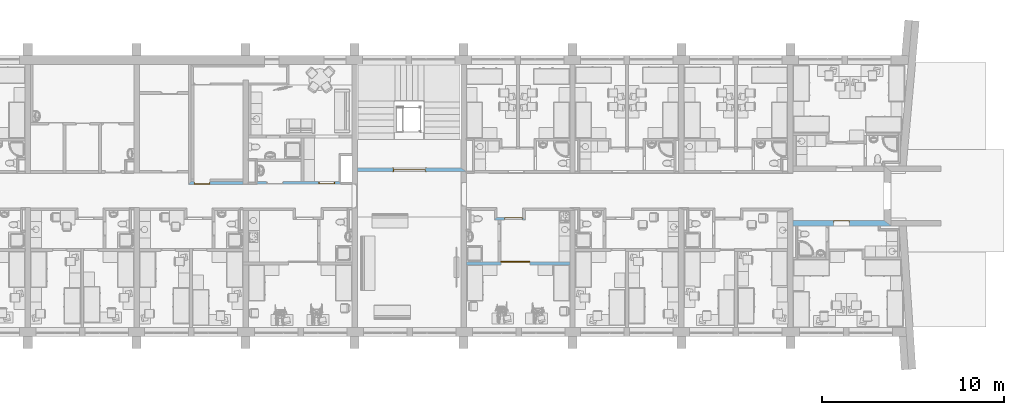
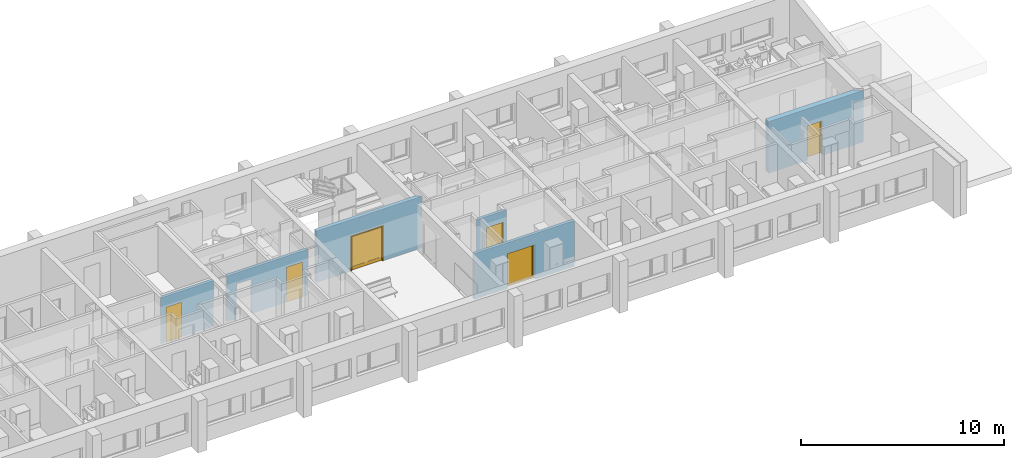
# One storey, part 38 of 172: 6 doors, 7 openings, plus 6 elements that do not belong to this part.
"""IFC2X3 building model written with IfcOpenShell, lengths in millimetres."""

from ifc_helpers import new_model, entity, si_unit, converted_unit, money_unit, direction, frame, origin_with_axes, place, context, subcontext, project, spatial, polyline, outline, extrude, open_shell, faceted_brep, surface_model, material, material_list, layer, layer_set, layer_usage, type_object, element, fill, save


model = new_model("IFC2X3")

# Units and contexts
model_context = context("Model", 3, precision=1e-05, world=origin_with_axes(), true_north=direction((0.0, 1.0)))
body_context = subcontext(model_context, "Body", "Model", "MODEL_VIEW")
ifc_project = project(units=[si_unit("LENGTHUNIT", "METRE", prefix="MILLI"), si_unit("AREAUNIT", "SQUARE_METRE"), si_unit("VOLUMEUNIT", "CUBIC_METRE"), converted_unit("PLANEANGLEUNIT", "DEGREE", entity("IfcPlaneAngleMeasure", 0.0174532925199), si_unit("PLANEANGLEUNIT", "RADIAN"), dimensions=[0, 0, 0, 0, 0, 0, 0]), si_unit("SOLIDANGLEUNIT", "STERADIAN"), money_unit("USD"), converted_unit("TIMEUNIT", "Year", entity("IfcTimeMeasure", 31556926.0), si_unit("TIMEUNIT", "SECOND"), dimensions=[0, 0, 0, 0, 0, 0, 0]), si_unit("MASSUNIT", "GRAM"), si_unit("THERMODYNAMICTEMPERATUREUNIT", "DEGREE_CELSIUS"), si_unit("LUMINOUSINTENSITYUNIT", "LUMEN")], contexts=[model_context])

# Site, building, storey
site_placement = place(None, origin_with_axes())
site = spatial("IfcSite", under=ifc_project, at=site_placement, Name="Site", CompositionType="ELEMENT")
building_placement = place(site_placement, origin_with_axes())
building = spatial("IfcBuilding", under=site, at=building_placement, Name="Building", CompositionType="ELEMENT")
storey_placement = place(building_placement, frame((0.0, 0.0, 3200.0), z_axis=(0.0, 0.0, 1.0), x_axis=(1.0, 0.0, 0.0)))
storey = spatial("IfcBuildingStorey", under=building, at=storey_placement, Name="3KORRUS", CompositionType="ELEMENT", Elevation=3200.0)

# Wall, opening, door
ifc_material_1 = material(Name="UmbKipsplaat")
ifc_layer_1 = layer(ifc_material_1, 13.0, ventilated="UNKNOWN")
ifc_layer_2 = layer(ifc_material_1, 13.0, ventilated="UNKNOWN")
ifc_material_2 = material(Name="SOOJUSTUS MINERAALVILL")
ifc_layer_3 = layer(ifc_material_2, 98.0, ventilated="UNKNOWN")
ifc_layer_4 = layer(ifc_material_1, 13.0, ventilated="UNKNOWN")
ifc_layer_5 = layer(ifc_material_1, 13.0, ventilated="UNKNOWN")
ifc_layer_set_1 = layer_set([ifc_layer_1, ifc_layer_2, ifc_layer_3, ifc_layer_4, ifc_layer_5], Name="kipssein150")
ifc_layer_usage_1 = layer_usage(ifc_layer_set_1, "AXIS2", "POSITIVE", -150.0)
wall_type_1 = type_object("IfcWallType", Name="kipssein150 150", PredefinedType="NOTDEFINED")
wall_1_placement = place(storey_placement, frame((-18290.2967033, -11742.9769722, 0.0), z_axis=(0.0, 0.0, 1.0), x_axis=(-1.0, 0.0, 0.0)))
wall_1 = element("IfcWallStandardCase", 1, at=wall_1_placement, inside=storey, type_object=wall_type_1, material=ifc_layer_usage_1, Name="SS1", ObjectType="SS1", context=body_context, shape_type="SweptSolid", body=[
    extrude(outline(polyline([(0.0, -150.0), (2853.5030761, -150.0), (3003.5030761, 0.0), (0.0, 0.0), (0.0, -150.0)])), origin_with_axes(), (0.0, 0.0, 1.0), 2750.0),
])
opening_1_placement = place(wall_1_placement, frame((2253.5030761, 0.0, 0.0), z_axis=(0.0, 0.0, 1.0), x_axis=(1.0, 0.0, 0.0)))
opening_1 = element("IfcOpeningElement", 2, at=opening_1_placement, cuts=wall_1, Name="SU2-1", context=body_context, shape_type="SweptSolid", body=[
    extrude(outline(polyline([(-450.0, -2100.0), (450.0, -2100.0), (450.0, 0.0), (-450.0, 0.0), (-450.0, -2100.0)])), frame((0.0, -150.0, 0.0), z_axis=(0.0, 1.0, 0.0), x_axis=(1.0, 0.0, 0.0)), (0.0, 0.0, 1.0), 450.0),
])
ifc_material_3 = material(Name="Background")
ifc_material_list = material_list([ifc_material_3])
door_style_1 = type_object("IfcDoorStyle", Name="Door 19", ConstructionType="NOTDEFINED", OperationType="SINGLE_SWING_RIGHT", ParameterTakesPrecedence=False, Sizeable=False)
door_1_placement = place(opening_1_placement, frame((-450.0, 0.0, 0.0), z_axis=(0.0, 0.0, 1.0), x_axis=(1.0, 0.0, 0.0)))
door_1 = element("IfcDoor", 3, at=door_1_placement, inside=storey, type_object=door_style_1, material=ifc_material_list, Name="SU2-1", ObjectType="Abiruumi uks", OverallHeight=2100.0, OverallWidth=900.0, context=body_context, shape_type="Brep", body=[
    faceted_brep([(40.0, -40.0, 0.0), (40.0, -40.0, 2060.0), (40.0, -115.0, 2060.0), (40.0, -115.0, 0.0), (28.0, -40.0, 2060.0), (28.0, -40.0, 0.0), (28.0, 0.0, 2060.0), (0.0, 0.0, 2060.0), (0.0, -115.0, 2060.0), (0.0, -115.0, 0.0), (0.0, 0.0, 0.0), (28.0, 0.0, 0.0)], [[[0, 1, 2, 3]], [[4, 1, 0, 5]], [[4, 6, 7, 8, 2, 1]], [[2, 8, 9, 3]], [[5, 0, 3, 9, 10, 11]], [[6, 4, 5, 11]], [[6, 11, 10, 7]], [[9, 8, 7, 10]]]),
    faceted_brep([(872.0, -40.0, 2060.0), (860.0, -40.0, 2060.0), (860.0, -115.0, 2060.0), (900.0, -115.0, 2060.0), (900.0, 0.0, 2060.0), (872.0, 0.0, 2060.0), (872.0, -40.0, 0.0), (860.0, -40.0, 0.0), (860.0, -115.0, 0.0), (900.0, -115.0, 0.0), (900.0, 0.0, 0.0), (872.0, 0.0, 0.0)], [[[0, 1, 2, 3, 4, 5]], [[1, 0, 6, 7]], [[1, 7, 8, 2]], [[2, 8, 9, 3]], [[3, 9, 10, 4]], [[11, 5, 4, 10]], [[0, 5, 11, 6]], [[6, 11, 10, 9, 8, 7]]]),
    faceted_brep([(28.0, 0.0, 2072.0), (28.0, 0.0, 2060.0), (0.0, 0.0, 2060.0), (0.0, 0.0, 2100.0), (900.0, 0.0, 2100.0), (900.0, 0.0, 2060.0), (872.0, 0.0, 2060.0), (872.0, 0.0, 2072.0), (28.0, -40.0, 2072.0), (28.0, -40.0, 2060.0), (40.0, -40.0, 2060.0), (40.0, -115.0, 2060.0), (0.0, -115.0, 2060.0), (0.0, -115.0, 2100.0), (900.0, -115.0, 2100.0), (900.0, -115.0, 2060.0), (872.0, -40.0, 2060.0), (860.0, -115.0, 2060.0), (860.0, -40.0, 2060.0), (872.0, -40.0, 2072.0)], [[[0, 1, 2, 3, 4, 5, 6, 7]], [[1, 0, 8, 9]], [[9, 10, 11, 12, 2, 1]], [[12, 13, 3, 2]], [[13, 14, 4, 3]], [[14, 15, 5, 4]], [[16, 6, 5, 15, 17, 18]], [[7, 6, 16, 19]], [[0, 7, 19, 8]], [[16, 18, 10, 9, 8, 19]], [[10, 18, 17, 11]], [[15, 14, 13, 12, 11, 17]]]),
    faceted_brep([(872.0, 0.0, 0.0), (872.0, -40.0, 0.0), (28.0, -40.0, 0.0), (28.0, 0.0, 0.0), (872.0, 0.0, 2072.0), (872.0, -40.0, 2072.0), (28.0, -40.0, 2072.0), (28.0, 0.0, 2072.0)], [[[0, 1, 2, 3]], [[4, 5, 1, 0]], [[1, 5, 6, 2]], [[3, 2, 6, 7]], [[0, 3, 7, 4]], [[7, 6, 5, 4]]]),
])
fill(opening_1, door_1)

ifc_layer_usage_2 = layer_usage(ifc_layer_set_1, "AXIS2", "POSITIVE", 0.0)
wall_2_placement = place(storey_placement, frame((9.70329668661, -16029.7357921, 0.0), z_axis=(0.0, 0.0, 1.0), x_axis=(-1.0, 0.0, 0.0)))
wall_2 = element("IfcWallStandardCase", 4, at=wall_2_placement, inside=storey, type_object=wall_type_1, material=ifc_layer_usage_2, Name="SS1", ObjectType="SS1", context=body_context, shape_type="SweptSolid", body=[
    extrude(outline(polyline([(300.0, 0.0), (6000.0, 0.0), (6000.0, 150.0), (300.0, 150.0), (300.0, 0.0)])), origin_with_axes(), (0.0, 0.0, 1.0), 2750.0),
])
opening_2_placement = place(wall_2_placement, frame((3298.49879352, 0.0, 0.0), z_axis=(0.0, 0.0, 1.0), x_axis=(1.0, 0.0, 0.0)))
opening_2 = element("IfcOpeningElement", 5, at=opening_2_placement, cuts=wall_2, Name="SU6-1", context=body_context, shape_type="SweptSolid", body=[
    extrude(outline(polyline([(-800.0, 0.0), (800.0, 0.0), (800.0, 2100.0), (-800.0, 2100.0), (-800.0, 0.0)])), frame((0.0, -150.0, 0.0), z_axis=(0.0, 1.0, 0.0), x_axis=(-1.0, 0.0, 0.0)), (0.0, 0.0, 1.0), 450.0),
])
door_style_2 = type_object("IfcDoorStyle", Name="Exterior Sliding Door 19", ConstructionType="NOTDEFINED", OperationType="SLIDING_TO_RIGHT", ParameterTakesPrecedence=False, Sizeable=False)
door_2_placement = place(opening_2_placement, frame((800.0, 0.0, 0.0), z_axis=(0.0, 0.0, 1.0), x_axis=(-1.0, 0.0, 0.0)))
door_2 = element("IfcDoor", 6, at=door_2_placement, inside=storey, type_object=door_style_2, material=ifc_material_list, Name="SU6-1", ObjectType="Toa uks", OverallHeight=2100.0, OverallWidth=1600.0, context=body_context, shape_type="SurfaceModel", body=[
    faceted_brep([(1600.0, 45.0, 100.0), (1600.0, 5.0, 100.0), (1500.0, 5.0, 100.0), (1500.0, 45.0, 100.0), (1600.0, 45.0, 2000.0), (1600.0, 5.0, 2000.0), (1500.0, 5.0, 2000.0), (1500.0, 45.0, 2000.0)], [[[0, 1, 2, 3]], [[4, 5, 1, 0]], [[1, 5, 6, 2]], [[3, 2, 6, 7]], [[0, 3, 7, 4]], [[7, 6, 5, 4]]]),
    faceted_brep([(0.0, 45.0, 100.0), (0.0, 5.0, 100.0), (0.0, 5.0, 2000.0), (0.0, 45.0, 2000.0), (100.0, 45.0, 100.0), (100.0, 5.0, 100.0), (100.0, 5.0, 2000.0), (100.0, 45.0, 2000.0)], [[[0, 1, 2, 3]], [[4, 5, 1, 0]], [[1, 5, 6, 2]], [[3, 2, 6, 7]], [[0, 3, 7, 4]], [[7, 6, 5, 4]]]),
    faceted_brep([(1600.0, 45.0, 0.0), (1600.0, 5.0, 0.0), (0.0, 5.0, 0.0), (0.0, 45.0, 0.0), (1600.0, 45.0, 100.0), (1600.0, 5.0, 100.0), (1500.0, 5.0, 100.0), (100.0, 5.0, 100.0), (0.0, 5.0, 100.0), (0.0, 45.0, 100.0), (100.0, 45.0, 100.0), (1500.0, 45.0, 100.0)], [[[0, 1, 2, 3]], [[4, 5, 1, 0]], [[1, 5, 6, 7, 8, 2]], [[3, 2, 8, 9]], [[0, 3, 9, 10, 11, 4]], [[11, 6, 5, 4]], [[10, 7, 6, 11]], [[9, 8, 7, 10]]]),
    faceted_brep([(1600.0, 45.0, 2100.0), (1600.0, 5.0, 2100.0), (1600.0, 5.0, 2000.0), (1600.0, 45.0, 2000.0), (0.0, 45.0, 2100.0), (0.0, 5.0, 2100.0), (0.0, 5.0, 2000.0), (100.0, 5.0, 2000.0), (1500.0, 5.0, 2000.0), (1500.0, 45.0, 2000.0), (100.0, 45.0, 2000.0), (0.0, 45.0, 2000.0)], [[[0, 1, 2, 3]], [[4, 5, 1, 0]], [[1, 5, 6, 7, 8, 2]], [[3, 2, 8, 9]], [[0, 3, 9, 10, 11, 4]], [[11, 6, 5, 4]], [[10, 7, 6, 11]], [[9, 8, 7, 10]]]),
    surface_model("IfcShellBasedSurfaceModel", [(1500.0, 31.0, 100.0), (100.0, 31.0, 100.0), (100.0, 31.0, 2000.0), (1500.0, 31.0, 2000.0)], [open_shell([[[0, 1, 2, 3]]])]),
    surface_model("IfcShellBasedSurfaceModel", [(1500.0, 19.0, 100.0), (1500.0, 19.0, 2000.0), (100.0, 19.0, 2000.0), (100.0, 19.0, 100.0)], [open_shell([[[0, 1, 2, 3]]])]),
])
fill(opening_2, door_2)

ifc_layer_usage_3 = layer_usage(ifc_layer_set_1, "AXIS2", "POSITIVE", -150.0)
wall_3_placement = place(storey_placement, frame((-4290.10332226, -13563.4524083, 0.0), z_axis=(0.0, 0.0, 1.0), x_axis=(1.0, 0.0, 0.0)))
wall_3 = element("IfcWallStandardCase", 7, at=wall_3_placement, inside=storey, type_object=wall_type_1, material=ifc_layer_usage_3, Name="SS1", ObjectType="SS1", context=body_context, shape_type="SweptSolid", body=[
    extrude(outline(polyline([(-150.0, -150.0), (1549.66067938, -150.0), (1399.66067938, 0.0), (0.0, 0.0), (-150.0, -150.0)])), origin_with_axes(), (0.0, 0.0, 1.0), 2750.0),
])
opening_3_placement = place(wall_3_placement, frame((899.660679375, 0.0, 0.0), z_axis=(0.0, 0.0, 1.0), x_axis=(1.0, 0.0, 0.0)))
opening_3 = element("IfcOpeningElement", 8, at=opening_3_placement, cuts=wall_3, Name="SU1-1", context=body_context, shape_type="SweptSolid", body=[
    extrude(outline(polyline([(-500.0, -2100.0), (500.0, -2100.0), (500.0, 0.0), (-500.0, 0.0), (-500.0, -2100.0)])), frame((0.0, -150.0, 0.0), z_axis=(0.0, 1.0, 0.0), x_axis=(1.0, 0.0, 0.0)), (0.0, 0.0, 1.0), 450.0),
])
door_3_placement = place(opening_3_placement, frame((-500.0, 0.0, 0.0), z_axis=(0.0, 0.0, 1.0), x_axis=(1.0, 0.0, 0.0)))
door_3 = element("IfcDoor", 9, at=door_3_placement, inside=storey, type_object=door_style_1, material=ifc_material_list, Name="SU1-1", ObjectType="Korteri välisuks", OverallHeight=2100.0, OverallWidth=1000.0, context=body_context, shape_type="Brep", body=[
    faceted_brep([(40.0, -40.0, 0.0), (40.0, -40.0, 2060.0), (40.0, -115.0, 2060.0), (40.0, -115.0, 0.0), (28.0, -40.0, 2060.0), (28.0, -40.0, 0.0), (28.0, 0.0, 2060.0), (0.0, 0.0, 2060.0), (0.0, -115.0, 2060.0), (0.0, -115.0, 0.0), (0.0, 0.0, 0.0), (28.0, 0.0, 0.0)], [[[0, 1, 2, 3]], [[4, 1, 0, 5]], [[4, 6, 7, 8, 2, 1]], [[2, 8, 9, 3]], [[5, 0, 3, 9, 10, 11]], [[6, 4, 5, 11]], [[6, 11, 10, 7]], [[9, 8, 7, 10]]]),
    faceted_brep([(972.0, -40.0, 2060.0), (960.0, -40.0, 2060.0), (960.0, -115.0, 2060.0), (1000.0, -115.0, 2060.0), (1000.0, 0.0, 2060.0), (972.0, 0.0, 2060.0), (972.0, -40.0, 0.0), (960.0, -40.0, 0.0), (960.0, -115.0, 0.0), (1000.0, -115.0, 0.0), (1000.0, 0.0, 0.0), (972.0, 0.0, 0.0)], [[[0, 1, 2, 3, 4, 5]], [[1, 0, 6, 7]], [[1, 7, 8, 2]], [[2, 8, 9, 3]], [[3, 9, 10, 4]], [[11, 5, 4, 10]], [[0, 5, 11, 6]], [[6, 11, 10, 9, 8, 7]]]),
    faceted_brep([(28.0, 0.0, 2072.0), (28.0, 0.0, 2060.0), (0.0, 0.0, 2060.0), (0.0, 0.0, 2100.0), (1000.0, 0.0, 2100.0), (1000.0, 0.0, 2060.0), (972.0, 0.0, 2060.0), (972.0, 0.0, 2072.0), (28.0, -40.0, 2072.0), (28.0, -40.0, 2060.0), (40.0, -40.0, 2060.0), (40.0, -115.0, 2060.0), (0.0, -115.0, 2060.0), (0.0, -115.0, 2100.0), (1000.0, -115.0, 2100.0), (1000.0, -115.0, 2060.0), (972.0, -40.0, 2060.0), (960.0, -115.0, 2060.0), (960.0, -40.0, 2060.0), (972.0, -40.0, 2072.0)], [[[0, 1, 2, 3, 4, 5, 6, 7]], [[1, 0, 8, 9]], [[9, 10, 11, 12, 2, 1]], [[12, 13, 3, 2]], [[13, 14, 4, 3]], [[14, 15, 5, 4]], [[16, 6, 5, 15, 17, 18]], [[7, 6, 16, 19]], [[0, 7, 19, 8]], [[16, 18, 10, 9, 8, 19]], [[10, 18, 17, 11]], [[15, 14, 13, 12, 11, 17]]]),
    faceted_brep([(972.0, 0.0, 0.0), (972.0, -40.0, 0.0), (28.0, -40.0, 0.0), (28.0, 0.0, 0.0), (972.0, 0.0, 2072.0), (972.0, -40.0, 2072.0), (28.0, -40.0, 2072.0), (28.0, 0.0, 2072.0)], [[[0, 1, 2, 3]], [[4, 5, 1, 0]], [[1, 5, 6, 2]], [[3, 2, 6, 7]], [[0, 3, 7, 4]], [[7, 6, 5, 4]]]),
])
fill(opening_3, door_3)

# Wall, openings, door
ifc_layer_usage_4 = layer_usage(ifc_layer_set_1, "AXIS2", "POSITIVE", 0.0)
wall_4_placement = place(storey_placement, frame((-17503.5225768, -11742.1092262, 0.0), z_axis=(0.0, 0.0, 1.0), x_axis=(1.0, 0.0, 0.0)))
wall_4 = element("IfcWallStandardCase", 10, at=wall_4_placement, inside=storey, type_object=wall_type_1, material=ifc_layer_usage_4, Name="SS1", ObjectType="SS1", context=body_context, shape_type="SweptSolid", body=[
    extrude(outline(polyline([(0.0, 0.0), (4613.2258735, 0.0), (4513.2258735, 150.0), (0.0, 150.0), (0.0, 0.0)])), origin_with_axes(), (0.0, 0.0, 1.0), 2750.0),
])
opening_4_placement = place(wall_4_placement, frame((3832.55628862, 0.0, 0.0), z_axis=(0.0, 0.0, 1.0), x_axis=(1.0, 0.0, 0.0)))
opening_4 = element("IfcOpeningElement", 11, at=opening_4_placement, cuts=wall_4, Name="SU2-5", context=body_context, shape_type="SweptSolid", body=[
    extrude(outline(polyline([(-450.0, -2100.0), (450.0, -2100.0), (450.0, 0.0), (-450.0, 0.0), (-450.0, -2100.0)])), frame((0.0, 150.0, 0.0), z_axis=(0.0, -1.0, 0.0), x_axis=(-1.0, 0.0, 0.0)), (0.0, 0.0, 1.0), 450.0),
])
opening_5_placement = place(wall_4_placement, frame((973.225873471, 0.0, 0.0), z_axis=(0.0, 0.0, 1.0), x_axis=(1.0, 0.0, 0.0)))
element("IfcOpeningElement", 12, at=opening_5_placement, cuts=wall_4, Name="SU2-4", context=body_context, shape_type="SweptSolid", body=[
    extrude(outline(polyline([(-450.0, -2100.0), (450.0, -2100.0), (450.0, 0.0), (-450.0, 0.0), (-450.0, -2100.0)])), frame((0.0, 150.0, 0.0), z_axis=(0.0, 1.0, 0.0), x_axis=(1.0, 0.0, 0.0)), (0.0, 0.0, -1.0), 450.0),
])
door_style_3 = type_object("IfcDoorStyle", Name="Door 19", ConstructionType="NOTDEFINED", OperationType="SINGLE_SWING_RIGHT", ParameterTakesPrecedence=False, Sizeable=False)
door_4_placement = place(opening_4_placement, frame((450.0, 0.0, 0.0), z_axis=(0.0, 0.0, 1.0), x_axis=(-1.0, 0.0, 0.0)))
door_4 = element("IfcDoor", 13, at=door_4_placement, inside=storey, type_object=door_style_3, material=ifc_material_list, Name="SU2-5", ObjectType="Korteri välisuks", OverallHeight=2100.0, OverallWidth=900.0, context=body_context, shape_type="Brep", body=[
    faceted_brep([(40.0, -40.0, 0.0), (40.0, -40.0, 2060.0), (40.0, -115.0, 2060.0), (40.0, -115.0, 0.0), (28.0, -40.0, 2060.0), (28.0, -40.0, 0.0), (28.0, 0.0, 2060.0), (0.0, 0.0, 2060.0), (0.0, -115.0, 2060.0), (0.0, -115.0, 0.0), (0.0, 0.0, 0.0), (28.0, 0.0, 0.0)], [[[0, 1, 2, 3]], [[4, 1, 0, 5]], [[4, 6, 7, 8, 2, 1]], [[2, 8, 9, 3]], [[5, 0, 3, 9, 10, 11]], [[6, 4, 5, 11]], [[6, 11, 10, 7]], [[9, 8, 7, 10]]]),
    faceted_brep([(872.0, -40.0, 2060.0), (860.0, -40.0, 2060.0), (860.0, -115.0, 2060.0), (900.0, -115.0, 2060.0), (900.0, 0.0, 2060.0), (872.0, 0.0, 2060.0), (872.0, -40.0, 0.0), (860.0, -40.0, 0.0), (860.0, -115.0, 0.0), (900.0, -115.0, 0.0), (900.0, 0.0, 0.0), (872.0, 0.0, 0.0)], [[[0, 1, 2, 3, 4, 5]], [[1, 0, 6, 7]], [[1, 7, 8, 2]], [[2, 8, 9, 3]], [[3, 9, 10, 4]], [[11, 5, 4, 10]], [[0, 5, 11, 6]], [[6, 11, 10, 9, 8, 7]]]),
    faceted_brep([(28.0, 0.0, 2072.0), (28.0, 0.0, 2060.0), (0.0, 0.0, 2060.0), (0.0, 0.0, 2100.0), (900.0, 0.0, 2100.0), (900.0, 0.0, 2060.0), (872.0, 0.0, 2060.0), (872.0, 0.0, 2072.0), (28.0, -40.0, 2072.0), (28.0, -40.0, 2060.0), (40.0, -40.0, 2060.0), (40.0, -115.0, 2060.0), (0.0, -115.0, 2060.0), (0.0, -115.0, 2100.0), (900.0, -115.0, 2100.0), (900.0, -115.0, 2060.0), (872.0, -40.0, 2060.0), (860.0, -115.0, 2060.0), (860.0, -40.0, 2060.0), (872.0, -40.0, 2072.0)], [[[0, 1, 2, 3, 4, 5, 6, 7]], [[1, 0, 8, 9]], [[9, 10, 11, 12, 2, 1]], [[12, 13, 3, 2]], [[13, 14, 4, 3]], [[14, 15, 5, 4]], [[16, 6, 5, 15, 17, 18]], [[7, 6, 16, 19]], [[0, 7, 19, 8]], [[16, 18, 10, 9, 8, 19]], [[10, 18, 17, 11]], [[15, 14, 13, 12, 11, 17]]]),
    faceted_brep([(872.0, 0.0, 0.0), (872.0, -40.0, 0.0), (28.0, -40.0, 0.0), (28.0, 0.0, 0.0), (872.0, 0.0, 2072.0), (872.0, -40.0, 2072.0), (28.0, -40.0, 2072.0), (28.0, 0.0, 2072.0)], [[[0, 1, 2, 3]], [[4, 5, 1, 0]], [[1, 5, 6, 2]], [[3, 2, 6, 7]], [[0, 3, 7, 4]], [[7, 6, 5, 4]]]),
])
fill(opening_4, door_4)

# Wall, opening, door
ifc_material_4 = material(Name="Olemasolevad seinad tellis, uus viimistlus")
ifc_layer_6 = layer(ifc_material_4, 300.0, ventilated="UNKNOWN")
ifc_layer_set_2 = layer_set([ifc_layer_6], Name="Olemasolevad seinad tellis, uus viimistlus  300")
ifc_layer_usage_5 = layer_usage(ifc_layer_set_2, "AXIS2", "POSITIVE", 0.0)
wall_type_2 = type_object("IfcWallType", Name="Olemasolevad seinad tellis, uus viimistlus  300", PredefinedType="NOTDEFINED")
wall_5_placement = place(storey_placement, frame((17015.1799697, -13739.2398994, 0.0), z_axis=(0.0, 0.0, 1.0), x_axis=(-1.0, 0.0, 0.0)))
wall_5 = element("IfcWallStandardCase", 14, at=wall_5_placement, inside=storey, type_object=wall_type_2, material=ifc_layer_usage_5, Name="SS2", ObjectType="OLEMASOLEV KANDESEIN", context=body_context, shape_type="SweptSolid", body=[
    extrude(outline(polyline([(0.0, 0.0), (5005.476673, 0.0), (5005.476673, 300.0), (-400.0, 300.0), (0.0, 0.0)])), origin_with_axes(), (0.0, 0.0, 1.0), 3100.0),
])
opening_6_placement = place(wall_5_placement, frame((2339.68172869, 0.0, 0.0), z_axis=(0.0, 0.0, 1.0), x_axis=(1.0, 0.0, 0.0)))
opening_6 = element("IfcOpeningElement", 15, at=opening_6_placement, cuts=wall_5, Name="SU2-5", context=body_context, shape_type="SweptSolid", body=[
    extrude(outline(polyline([(-450.0, -2100.0), (450.0, -2100.0), (450.0, 0.0), (-450.0, 0.0), (-450.0, -2100.0)])), frame((0.0, 300.0, 0.0), z_axis=(0.0, -1.0, 0.0), x_axis=(-1.0, 0.0, 0.0)), (0.0, 0.0, 1.0), 900.0),
])
door_5_placement = place(opening_6_placement, frame((450.0, 0.0, 0.0), z_axis=(0.0, 0.0, 1.0), x_axis=(-1.0, 0.0, 0.0)))
door_5 = element("IfcDoor", 16, at=door_5_placement, inside=storey, type_object=door_style_3, material=ifc_material_list, Name="SU2-5", ObjectType="Korteri välisuks", OverallHeight=2100.0, OverallWidth=900.0, context=body_context, shape_type="Brep", body=[
    faceted_brep([(40.0, -40.0, 0.0), (40.0, -40.0, 2060.0), (40.0, -115.0, 2060.0), (40.0, -115.0, 0.0), (28.0, -40.0, 2060.0), (28.0, -40.0, 0.0), (28.0, 0.0, 2060.0), (0.0, 0.0, 2060.0), (0.0, -115.0, 2060.0), (0.0, -115.0, 0.0), (0.0, 0.0, 0.0), (28.0, 0.0, 0.0)], [[[0, 1, 2, 3]], [[4, 1, 0, 5]], [[4, 6, 7, 8, 2, 1]], [[2, 8, 9, 3]], [[5, 0, 3, 9, 10, 11]], [[6, 4, 5, 11]], [[6, 11, 10, 7]], [[9, 8, 7, 10]]]),
    faceted_brep([(872.0, -40.0, 2060.0), (860.0, -40.0, 2060.0), (860.0, -115.0, 2060.0), (900.0, -115.0, 2060.0), (900.0, 0.0, 2060.0), (872.0, 0.0, 2060.0), (872.0, -40.0, 0.0), (860.0, -40.0, 0.0), (860.0, -115.0, 0.0), (900.0, -115.0, 0.0), (900.0, 0.0, 0.0), (872.0, 0.0, 0.0)], [[[0, 1, 2, 3, 4, 5]], [[1, 0, 6, 7]], [[1, 7, 8, 2]], [[2, 8, 9, 3]], [[3, 9, 10, 4]], [[11, 5, 4, 10]], [[0, 5, 11, 6]], [[6, 11, 10, 9, 8, 7]]]),
    faceted_brep([(28.0, 0.0, 2072.0), (28.0, 0.0, 2060.0), (0.0, 0.0, 2060.0), (0.0, 0.0, 2100.0), (900.0, 0.0, 2100.0), (900.0, 0.0, 2060.0), (872.0, 0.0, 2060.0), (872.0, 0.0, 2072.0), (28.0, -40.0, 2072.0), (28.0, -40.0, 2060.0), (40.0, -40.0, 2060.0), (40.0, -115.0, 2060.0), (0.0, -115.0, 2060.0), (0.0, -115.0, 2100.0), (900.0, -115.0, 2100.0), (900.0, -115.0, 2060.0), (872.0, -40.0, 2060.0), (860.0, -115.0, 2060.0), (860.0, -40.0, 2060.0), (872.0, -40.0, 2072.0)], [[[0, 1, 2, 3, 4, 5, 6, 7]], [[1, 0, 8, 9]], [[9, 10, 11, 12, 2, 1]], [[12, 13, 3, 2]], [[13, 14, 4, 3]], [[14, 15, 5, 4]], [[16, 6, 5, 15, 17, 18]], [[7, 6, 16, 19]], [[0, 7, 19, 8]], [[16, 18, 10, 9, 8, 19]], [[10, 18, 17, 11]], [[15, 14, 13, 12, 11, 17]]]),
    faceted_brep([(872.0, 0.0, 0.0), (872.0, -40.0, 0.0), (28.0, -40.0, 0.0), (28.0, 0.0, 0.0), (872.0, 0.0, 2072.0), (872.0, -40.0, 2072.0), (28.0, -40.0, 2072.0), (28.0, 0.0, 2072.0)], [[[0, 1, 2, 3]], [[4, 5, 1, 0]], [[1, 5, 6, 2]], [[3, 2, 6, 7]], [[0, 3, 7, 4]], [[7, 6, 5, 4]]]),
])
fill(opening_6, door_5)

ifc_layer_7 = layer(ifc_material_4, 200.0, ventilated="UNKNOWN")
ifc_layer_set_3 = layer_set([ifc_layer_7], Name="Olemasolevad seinad tellis, uus viimistlus  200")
ifc_layer_usage_6 = layer_usage(ifc_layer_set_3, "AXIS2", "POSITIVE", -200.0)
wall_type_3 = type_object("IfcWallType", Name="Olemasolevad seinad tellis, uus viimistlus  200", PredefinedType="NOTDEFINED")
wall_6_placement = place(storey_placement, frame((-5990.29670331, -11039.6041088, 0.0), z_axis=(0.0, 0.0, 1.0), x_axis=(-1.0, 0.0, 0.0)))
wall_6 = element("IfcWallStandardCase", 17, at=wall_6_placement, inside=storey, type_object=wall_type_3, material=ifc_layer_usage_6, Name="KS1", ObjectType="KS1", context=body_context, shape_type="SweptSolid", body=[
    extrude(outline(polyline([(300.0, -200.0), (5999.99999999, -200.0), (5999.99999999, 0.0), (0.0, 0.0), (300.0, -200.0)])), origin_with_axes(), (0.0, 0.0, 1.0), 3100.0),
])
opening_7_placement = place(wall_6_placement, frame((3133.31707985, 0.0, 0.0), z_axis=(0.0, 0.0, 1.0), x_axis=(1.0, 0.0, 0.0)))
opening_7 = element("IfcOpeningElement", 18, at=opening_7_placement, cuts=wall_6, Name="SU5", context=body_context, shape_type="SweptSolid", body=[
    extrude(outline(polyline([(-900.0, 0.0), (900.0, 0.0), (900.0, 2100.0), (-900.0, 2100.0), (-900.0, 0.0)])), frame((0.0, -200.0, 0.0), z_axis=(0.0, 1.0, 0.0), x_axis=(-1.0, 0.0, 0.0)), (0.0, 0.0, 1.0), 600.0),
    extrude(outline(polyline([(-937.0, 0.0), (-937.0, -2137.0), (937.0, -2137.0), (937.0, 0.0), (-937.0, 0.0)])), frame((0.0, -200.0, 0.0), z_axis=(0.0, -1.0, 0.0), x_axis=(-1.0, 0.0, 0.0)), (0.0, 0.0, 1.0), 200.0),
    extrude(outline(polyline([(-937.0, 2137.0), (-937.0, 0.0), (937.0, 0.0), (937.0, 2137.0), (-937.0, 2137.0)])), frame((0.0, 0.0, 0.0), z_axis=(0.0, 1.0, 0.0), x_axis=(-1.0, 0.0, 0.0)), (0.0, 0.0, 1.0), 200.0),
])
door_style_4 = type_object("IfcDoorStyle", Name="Double Door 19", ConstructionType="NOTDEFINED", OperationType="DOUBLE_DOOR_SINGLE_SWING", ParameterTakesPrecedence=False, Sizeable=False)
door_6_placement = place(opening_7_placement, frame((900.0, 0.0, 0.0), z_axis=(0.0, 0.0, 1.0), x_axis=(-1.0, 0.0, 0.0)))
door_6 = element("IfcDoor", 19, at=door_6_placement, inside=storey, type_object=door_style_4, material=ifc_material_list, Name="SU5", ObjectType="Trepkoja uks", OverallHeight=2100.0, OverallWidth=1800.0, context=body_context, shape_type="SurfaceModel", body=[
    faceted_brep([(0.0, 115.0, 0.0), (0.0, 200.0, 0.0), (25.0, 200.0, 0.0), (25.0, 115.0, 0.0), (0.0, 115.0, 2100.0), (0.0, 200.0, 2100.0), (25.0, 200.0, 2075.0), (25.0, 115.0, 2075.0)], [[[0, 1, 2, 3]], [[4, 5, 1, 0]], [[1, 5, 6, 2]], [[3, 2, 6, 7]], [[0, 3, 7, 4]], [[7, 6, 5, 4]]]),
    faceted_brep([(1800.0, 115.0, 2100.0), (1800.0, 200.0, 2100.0), (1775.0, 200.0, 2075.0), (1775.0, 115.0, 2075.0), (1800.0, 115.0, 0.0), (1800.0, 200.0, 0.0), (1775.0, 200.0, 0.0), (1775.0, 115.0, 0.0)], [[[0, 1, 2, 3]], [[4, 5, 1, 0]], [[1, 5, 6, 2]], [[3, 2, 6, 7]], [[0, 3, 7, 4]], [[7, 6, 5, 4]]]),
    faceted_brep([(25.0, 115.0, 2075.0), (25.0, 200.0, 2075.0), (1775.0, 200.0, 2075.0), (1775.0, 115.0, 2075.0), (0.0, 115.0, 2100.0), (0.0, 200.0, 2100.0), (1800.0, 200.0, 2100.0), (1800.0, 115.0, 2100.0)], [[[0, 1, 2, 3]], [[4, 5, 1, 0]], [[1, 5, 6, 2]], [[3, 2, 6, 7]], [[0, 3, 7, 4]], [[7, 6, 5, 4]]]),
    faceted_brep([(-37.0, 219.0, 0.0), (13.0, 219.0, 0.0), (13.0, 200.0, 0.0), (-37.0, 200.0, 0.0), (-37.0, 219.0, 2137.0), (13.0, 219.0, 2087.0), (13.0, 200.0, 2087.0), (-37.0, 200.0, 2137.0)], [[[0, 1, 2, 3]], [[0, 4, 5, 1]], [[1, 5, 6, 2]], [[3, 2, 6, 7]], [[4, 0, 3, 7]], [[5, 4, 7, 6]]]),
    faceted_brep([(1837.0, 219.0, 2137.0), (1787.0, 219.0, 2087.0), (1787.0, 200.0, 2087.0), (1837.0, 200.0, 2137.0), (1837.0, 219.0, 0.0), (1787.0, 219.0, 0.0), (1787.0, 200.0, 0.0), (1837.0, 200.0, 0.0)], [[[0, 1, 2, 3]], [[0, 4, 5, 1]], [[1, 5, 6, 2]], [[3, 2, 6, 7]], [[4, 0, 3, 7]], [[5, 4, 7, 6]]]),
    faceted_brep([(-37.0, 219.0, 2137.0), (13.0, 219.0, 2087.0), (13.0, 200.0, 2087.0), (-37.0, 200.0, 2137.0), (1837.0, 219.0, 2137.0), (1787.0, 219.0, 2087.0), (1787.0, 200.0, 2087.0), (1837.0, 200.0, 2137.0)], [[[0, 1, 2, 3]], [[0, 4, 5, 1]], [[1, 5, 6, 2]], [[3, 2, 6, 7]], [[4, 0, 3, 7]], [[5, 4, 7, 6]]]),
    faceted_brep([(-37.0, -19.0, 0.0), (-37.0, 0.0, 0.0), (13.0, 0.0, 0.0), (13.0, -19.0, 0.0), (-37.0, -19.0, 2137.0), (-37.0, 0.0, 2137.0), (13.0, 0.0, 2087.0), (13.0, -19.0, 2087.0)], [[[0, 1, 2, 3]], [[4, 5, 1, 0]], [[1, 5, 6, 2]], [[3, 2, 6, 7]], [[0, 3, 7, 4]], [[7, 6, 5, 4]]]),
    faceted_brep([(1837.0, -19.0, 2137.0), (1837.0, 0.0, 2137.0), (1787.0, 0.0, 2087.0), (1787.0, -19.0, 2087.0), (1837.0, -19.0, 0.0), (1837.0, 0.0, 0.0), (1787.0, 0.0, 0.0), (1787.0, -19.0, 0.0)], [[[0, 1, 2, 3]], [[4, 5, 1, 0]], [[1, 5, 6, 2]], [[3, 2, 6, 7]], [[0, 3, 7, 4]], [[7, 6, 5, 4]]]),
    faceted_brep([(-37.0, -19.0, 2137.0), (-37.0, 0.0, 2137.0), (13.0, 0.0, 2087.0), (13.0, -19.0, 2087.0), (1837.0, -19.0, 2137.0), (1837.0, 0.0, 2137.0), (1787.0, 0.0, 2087.0), (1787.0, -19.0, 2087.0)], [[[0, 1, 2, 3]], [[4, 5, 1, 0]], [[1, 5, 6, 2]], [[3, 2, 6, 7]], [[0, 3, 7, 4]], [[7, 6, 5, 4]]]),
    faceted_brep([(40.0, 75.0, 0.0), (40.0, 75.0, 2060.0), (40.0, 0.0, 2060.0), (40.0, 0.0, 0.0), (28.0, 75.0, 2060.0), (28.0, 75.0, 0.0), (28.0, 115.0, 2060.0), (0.0, 115.0, 2060.0), (0.0, 0.0, 2060.0), (0.0, 0.0, 0.0), (0.0, 115.0, 0.0), (28.0, 115.0, 0.0)], [[[0, 1, 2, 3]], [[4, 1, 0, 5]], [[4, 6, 7, 8, 2, 1]], [[2, 8, 9, 3]], [[5, 0, 3, 9, 10, 11]], [[6, 4, 5, 11]], [[6, 11, 10, 7]], [[9, 8, 7, 10]]]),
    faceted_brep([(1772.0, 75.0, 2060.0), (1760.0, 75.0, 2060.0), (1760.0, 0.0, 2060.0), (1800.0, 0.0, 2060.0), (1800.0, 115.0, 2060.0), (1772.0, 115.0, 2060.0), (1772.0, 75.0, 0.0), (1760.0, 75.0, 0.0), (1760.0, 0.0, 0.0), (1800.0, 0.0, 0.0), (1800.0, 115.0, 0.0), (1772.0, 115.0, 0.0)], [[[0, 1, 2, 3, 4, 5]], [[1, 0, 6, 7]], [[1, 7, 8, 2]], [[2, 8, 9, 3]], [[3, 9, 10, 4]], [[11, 5, 4, 10]], [[0, 5, 11, 6]], [[6, 11, 10, 9, 8, 7]]]),
    faceted_brep([(28.0, 115.0, 2072.0), (28.0, 115.0, 2060.0), (0.0, 115.0, 2060.0), (0.0, 115.0, 2100.0), (1800.0, 115.0, 2100.0), (1800.0, 115.0, 2060.0), (1772.0, 115.0, 2060.0), (1772.0, 115.0, 2072.0), (28.0, 75.0, 2072.0), (28.0, 75.0, 2060.0), (40.0, 75.0, 2060.0), (40.0, 0.0, 2060.0), (0.0, 0.0, 2060.0), (0.0, 0.0, 2100.0), (1800.0, 0.0, 2100.0), (1800.0, 0.0, 2060.0), (1772.0, 75.0, 2060.0), (1760.0, 0.0, 2060.0), (1760.0, 75.0, 2060.0), (1772.0, 75.0, 2072.0)], [[[0, 1, 2, 3, 4, 5, 6, 7]], [[1, 0, 8, 9]], [[9, 10, 11, 12, 2, 1]], [[12, 13, 3, 2]], [[13, 14, 4, 3]], [[14, 15, 5, 4]], [[16, 6, 5, 15, 17, 18]], [[7, 6, 16, 19]], [[0, 7, 19, 8]], [[16, 18, 10, 9, 8, 19]], [[10, 18, 17, 11]], [[15, 14, 13, 12, 11, 17]]]),
    faceted_brep([(1772.0, 115.0, 200.0), (1772.0, 75.0, 200.0), (1672.0, 75.0, 200.0), (1672.0, 115.0, 200.0), (1772.0, 115.0, 1972.0), (1772.0, 75.0, 1972.0), (1672.0, 75.0, 1972.0), (1672.0, 115.0, 1972.0)], [[[0, 1, 2, 3]], [[4, 5, 1, 0]], [[1, 5, 6, 2]], [[3, 2, 6, 7]], [[0, 3, 7, 4]], [[7, 6, 5, 4]]]),
    faceted_brep([(900.0, 115.0, 200.0), (900.0, 75.0, 200.0), (900.0, 75.0, 1972.0), (900.0, 115.0, 1972.0), (1000.0, 115.0, 200.0), (1000.0, 75.0, 200.0), (1000.0, 75.0, 1972.0), (1000.0, 115.0, 1972.0)], [[[0, 1, 2, 3]], [[4, 5, 1, 0]], [[1, 5, 6, 2]], [[3, 2, 6, 7]], [[0, 3, 7, 4]], [[7, 6, 5, 4]]]),
    faceted_brep([(1772.0, 115.0, 0.0), (1772.0, 75.0, 0.0), (900.0, 75.0, 0.0), (900.0, 115.0, 0.0), (1772.0, 115.0, 200.0), (1772.0, 75.0, 200.0), (1672.0, 75.0, 200.0), (1000.0, 75.0, 200.0), (900.0, 75.0, 200.0), (900.0, 115.0, 200.0), (1000.0, 115.0, 200.0), (1672.0, 115.0, 200.0)], [[[0, 1, 2, 3]], [[4, 5, 1, 0]], [[1, 5, 6, 7, 8, 2]], [[3, 2, 8, 9]], [[0, 3, 9, 10, 11, 4]], [[11, 6, 5, 4]], [[10, 7, 6, 11]], [[9, 8, 7, 10]]]),
    faceted_brep([(1772.0, 115.0, 2072.0), (1772.0, 75.0, 2072.0), (1772.0, 75.0, 1972.0), (1772.0, 115.0, 1972.0), (900.0, 115.0, 2072.0), (900.0, 75.0, 2072.0), (900.0, 75.0, 1972.0), (1000.0, 75.0, 1972.0), (1672.0, 75.0, 1972.0), (1672.0, 115.0, 1972.0), (1000.0, 115.0, 1972.0), (900.0, 115.0, 1972.0)], [[[0, 1, 2, 3]], [[4, 5, 1, 0]], [[1, 5, 6, 7, 8, 2]], [[3, 2, 8, 9]], [[0, 3, 9, 10, 11, 4]], [[11, 6, 5, 4]], [[10, 7, 6, 11]], [[9, 8, 7, 10]]]),
    surface_model("IfcShellBasedSurfaceModel", [(1672.0, 101.0, 200.0), (1000.0, 101.0, 200.0), (1000.0, 101.0, 1972.0), (1672.0, 101.0, 1972.0)], [open_shell([[[0, 1, 2, 3]]])]),
    surface_model("IfcShellBasedSurfaceModel", [(1672.0, 89.0, 200.0), (1672.0, 89.0, 1972.0), (1000.0, 89.0, 1972.0), (1000.0, 89.0, 200.0)], [open_shell([[[0, 1, 2, 3]]])]),
    faceted_brep([(28.0, 115.0, 200.0), (128.0, 115.0, 200.0), (128.0, 75.0, 200.0), (28.0, 75.0, 200.0), (28.0, 115.0, 1972.0), (128.0, 115.0, 1972.0), (128.0, 75.0, 1972.0), (28.0, 75.0, 1972.0)], [[[0, 1, 2, 3]], [[0, 4, 5, 1]], [[1, 5, 6, 2]], [[3, 2, 6, 7]], [[4, 0, 3, 7]], [[5, 4, 7, 6]]]),
    faceted_brep([(900.0, 115.0, 200.0), (900.0, 115.0, 1972.0), (900.0, 75.0, 1972.0), (900.0, 75.0, 200.0), (800.0, 115.0, 200.0), (800.0, 115.0, 1972.0), (800.0, 75.0, 1972.0), (800.0, 75.0, 200.0)], [[[0, 1, 2, 3]], [[0, 4, 5, 1]], [[1, 5, 6, 2]], [[3, 2, 6, 7]], [[4, 0, 3, 7]], [[5, 4, 7, 6]]]),
    faceted_brep([(28.0, 115.0, 0.0), (900.0, 115.0, 0.0), (900.0, 75.0, 0.0), (28.0, 75.0, 0.0), (28.0, 115.0, 200.0), (128.0, 115.0, 200.0), (800.0, 115.0, 200.0), (900.0, 115.0, 200.0), (900.0, 75.0, 200.0), (800.0, 75.0, 200.0), (128.0, 75.0, 200.0), (28.0, 75.0, 200.0)], [[[0, 1, 2, 3]], [[0, 4, 5, 6, 7, 1]], [[1, 7, 8, 2]], [[3, 2, 8, 9, 10, 11]], [[4, 0, 3, 11]], [[5, 4, 11, 10]], [[6, 5, 10, 9]], [[7, 6, 9, 8]]]),
    faceted_brep([(28.0, 115.0, 2072.0), (28.0, 115.0, 1972.0), (28.0, 75.0, 1972.0), (28.0, 75.0, 2072.0), (900.0, 115.0, 2072.0), (900.0, 115.0, 1972.0), (800.0, 115.0, 1972.0), (128.0, 115.0, 1972.0), (128.0, 75.0, 1972.0), (800.0, 75.0, 1972.0), (900.0, 75.0, 1972.0), (900.0, 75.0, 2072.0)], [[[0, 1, 2, 3]], [[0, 4, 5, 6, 7, 1]], [[1, 7, 8, 2]], [[3, 2, 8, 9, 10, 11]], [[4, 0, 3, 11]], [[5, 4, 11, 10]], [[6, 5, 10, 9]], [[7, 6, 9, 8]]]),
    surface_model("IfcShellBasedSurfaceModel", [(128.0, 101.0, 200.0), (128.0, 101.0, 1972.0), (800.0, 101.0, 1972.0), (800.0, 101.0, 200.0)], [open_shell([[[0, 1, 2, 3]]])]),
    surface_model("IfcShellBasedSurfaceModel", [(128.0, 89.0, 200.0), (800.0, 89.0, 200.0), (800.0, 89.0, 1972.0), (128.0, 89.0, 1972.0)], [open_shell([[[0, 1, 2, 3]]])]),
])
fill(opening_7, door_6)

save(model, "model.ifc")
